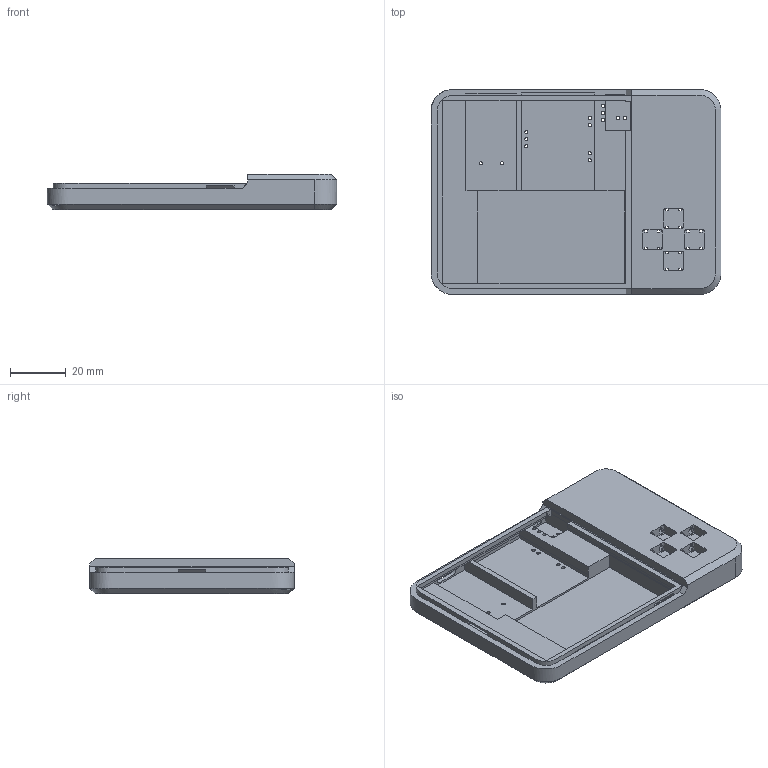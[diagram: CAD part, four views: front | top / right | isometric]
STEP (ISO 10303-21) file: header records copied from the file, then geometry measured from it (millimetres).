
FILE_DESCRIPTION(/* description */ (''),/* implementation_level */ '2;1');
FILE_NAME(/* name */ 'main',/* time_stamp */ '2022-01-04T22:30:44+01:00',/* author */ (''),/* organization */ (''),/* preprocessor_version */ 'ST-DEVELOPER v10',/* originating_system */ '',/* authorisation */ '');
FILE_SCHEMA (('CONFIG_CONTROL_DESIGN'));
Length unit declared in the file: millimetre
Products named in the file (1): 1
Bounding box: 104.35 x 73.7 x 12.7 mm (x, y, z)
Surface area: 25795.2 mm2 (no closed solid volume)
Topology: 0 solids, 1 shells, 498 faces, 1412 edges, 832 vertices
Faces by surface type: plane 305, bspline 193
Entity records: 48628 total; most frequent: CARTESIAN_POINT 39806, ORIENTED_EDGE 2697, EDGE_CURVE 1349, B_SPLINE_CURVE_WITH_KNOTS 1230, VERTEX_POINT 832, EDGE_LOOP 546, ADVANCED_FACE 498, FACE_OUTER_BOUND 498
